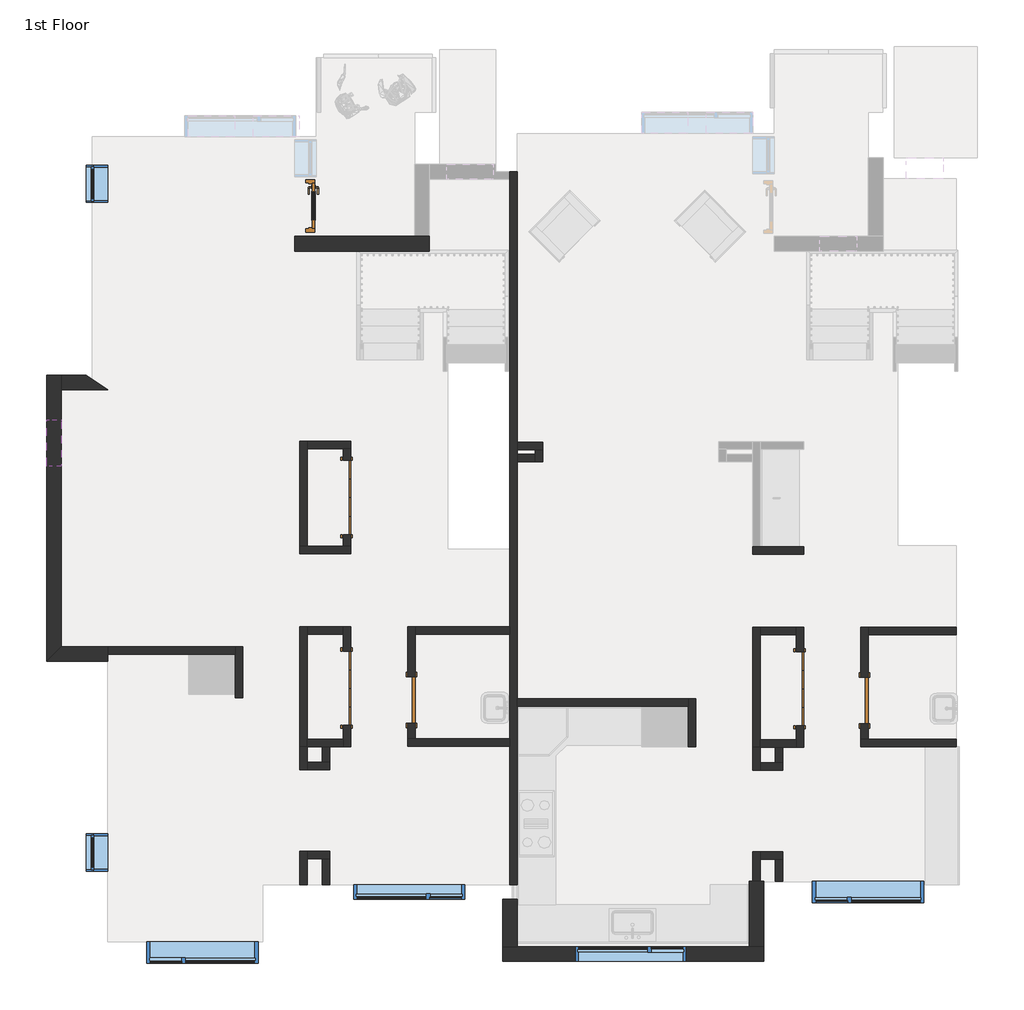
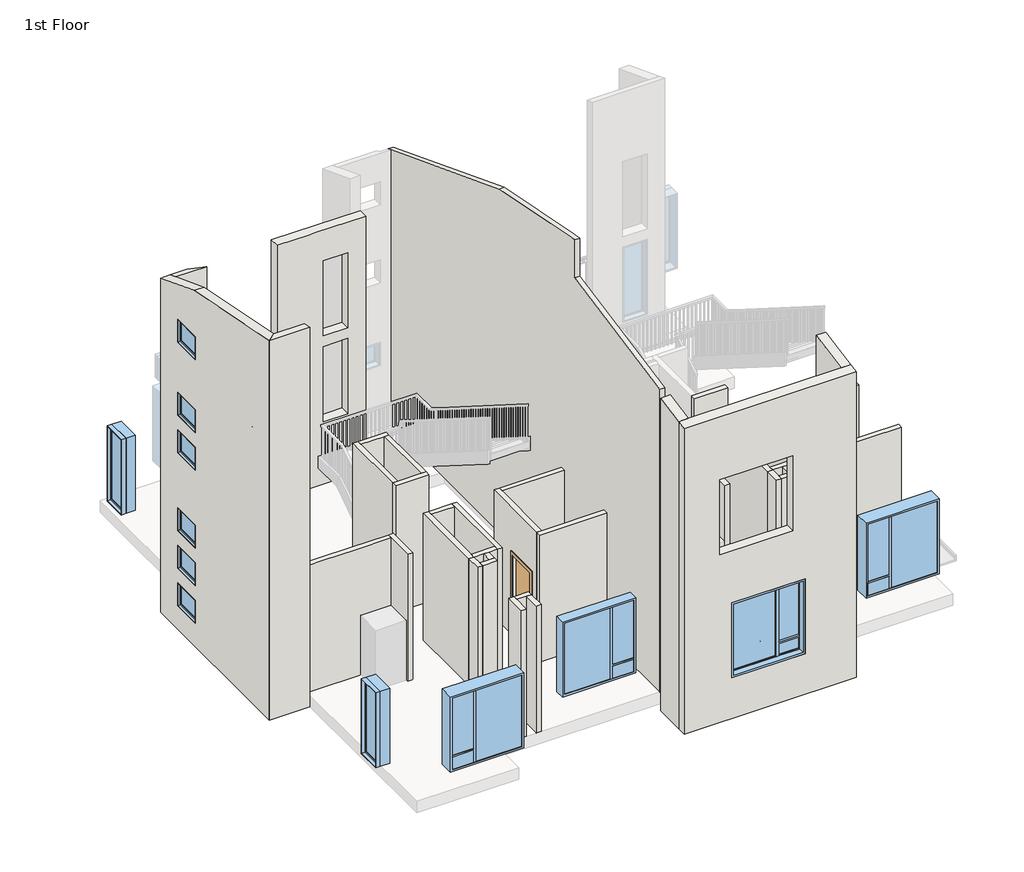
# One storey, part 1 of 6: 46 walls, 12 windows, 6 doors.
"""IFC4 building model written with IfcOpenShell, lengths in millimetres."""

from ifc_helpers import new_model, si_unit, frame, origin, origin_with_axes, place, context, project, spatial, polyline, outline, extrude, faceted_brep, transform, mapped, element, save
from components import bifold_4_panel_87549022, door_00adfaa7, door_f8acb57e, window_8bf192ed, window_b1c1038b, window_8c170f25, window_7b40078c, window_0ea17b29, window_b4566f23

model = new_model("IFC4")

# Units and contexts
model_context = context("Model", 3, world=origin())
ifc_project = project(units=[si_unit("LENGTHUNIT", "METRE", prefix="MILLI")], contexts=[model_context])

# Site, building, storey
site = spatial("IfcSite", under=ifc_project)
building = spatial("IfcBuilding", under=site)
storey = spatial("IfcBuildingStorey", under=building, Name="1st Floor", Elevation=0.0)

# Doors
placement = place(None, origin())
bifold_4_panel_shape = bifold_4_panel_87549022(model_context)
element("IfcDoor", 1, ObjectType="Bifold - 4 panel : 48\" x  84\"", at=placement, inside=storey, context=model_context, shape_type="MappedRepresentation", body=[
    mapped(bifold_4_panel_shape, transform((3072.3655789, -2688.2311915, 0.0), x_axis=(0.0, -1.0, 0.0), y_axis=(1.0, 0.0, 0.0), z_axis=(0.0, 0.0, 1.0))),
])
element("IfcDoor", 2, ObjectType="Bifold - 4 panel : 48\" x  84\"", at=placement, inside=storey, context=model_context, shape_type="MappedRepresentation", body=[
    mapped(bifold_4_panel_shape, transform((-4380.8788287, -2678.2311915, 0.0), x_axis=(0.0, -1.0, 0.0), y_axis=(1.0, 0.0, 0.0), z_axis=(0.0, 0.0, 1.0))),
])
element("IfcDoor", 3, ObjectType="Bifold - 4 panel : 48\" x  84\"", at=placement, inside=storey, context=model_context, shape_type="MappedRepresentation", body=[
    mapped(bifold_4_panel_shape, transform((-4380.8788287, 458.0881146, 0.0), x_axis=(0.0, -1.0, 0.0), y_axis=(1.0, 0.0, 0.0), z_axis=(0.0, 0.0, 1.0))),
])
door_shape = door_00adfaa7(model_context)
element("IfcDoor", 4, ObjectType="Door-Passage-Single-Full_Lite : 30\" x 84\"", at=placement, inside=storey, context=model_context, shape_type="MappedRepresentation", body=[
    mapped(door_shape, transform((-5065.5821781, 5257.9813085, 0.0), x_axis=(0.0, -1.0, 0.0), y_axis=(1.0, 0.0, 0.0), z_axis=(0.0, 0.0, 1.0))),
])
door_2_shape = door_f8acb57e(model_context)
element("IfcDoor", 5, ObjectType="Single-Flush : 30\" x 84\"", at=placement, inside=storey, context=model_context, shape_type="MappedRepresentation", body=[
    mapped(door_2_shape, transform((4133.8655789, -2883.0811915, 0.0), x_axis=(0.0, -1.0, 0.0), y_axis=(1.0, 0.0, 0.0), z_axis=(0.0, 0.0, 1.0))),
])
element("IfcDoor", 6, ObjectType="Single-Flush : 30\" x 84\"", at=placement, inside=storey, context=model_context, shape_type="MappedRepresentation", body=[
    mapped(door_2_shape, transform((-3319.3788287, -2873.0811915, 0.0), x_axis=(0.0, -1.0, 0.0), y_axis=(1.0, 0.0, 0.0), z_axis=(0.0, 0.0, 1.0))),
])

# Walls
element("IfcWall", 7, ObjectType="Exterior - Stucco", at=placement, inside=storey, context=model_context, shape_type="Brep", body=[
    faceted_brep([(-1817.4196781, -7175.2311915, -304.8), (2477.8178219, -7175.2311915, -304.8), (2477.8178219, -7175.2311915, 7751.741203), (-1817.4196781, -7175.2311915, 7751.741203), (1202.9938664, -7175.2311915, 2743.2), (1202.9938664, -7175.2311915, 762.0), (-625.8061336, -7175.2311915, 762.0), (-625.8061336, -7175.2311915, 2743.2), (898.1938664, -7175.2311915, 6096.0), (898.1938664, -7175.2311915, 4114.8), (-930.6061336, -7175.2311915, 4114.8), (-930.6061336, -7175.2311915, 6096.0), (-1817.4196781, -6933.9311915, -304.8), (-1817.4196781, -6933.9311915, 7798.3676333), (-1576.1196781, -6933.9311915, 7798.3676333), (2236.5178219, -6933.9311915, 7798.3676333), (2477.8178219, -6933.9311915, 7798.3676333), (2477.8178219, -6933.9311915, -304.8), (2236.5178219, -6933.9311915, -304.8), (-1576.1196781, -6933.9311915, -304.8), (1202.9938664, -6933.9311915, 2743.2), (-625.8061336, -6933.9311915, 2743.2), (-625.8061336, -6933.9311915, 762.0), (1202.9938664, -6933.9311915, 762.0), (898.1938664, -6933.9311915, 6096.0), (-930.6061336, -6933.9311915, 6096.0), (-930.6061336, -6933.9311915, 4114.8), (898.1938664, -6933.9311915, 4114.8)], [[[0, 1, 2, 3], [4, 5, 6, 7], [8, 9, 10, 11]], [[12, 13, 14, 15, 16, 17, 18, 19], [20, 21, 22, 23], [24, 25, 26, 27]], [[1, 0, 12, 19, 18, 17]], [[0, 3, 13, 12]], [[2, 1, 17, 16]], [[3, 2, 16, 15, 14, 13]], [[5, 4, 20, 23]], [[6, 5, 23, 22]], [[7, 6, 22, 21]], [[4, 7, 21, 20]], [[9, 8, 24, 27]], [[10, 9, 27, 26]], [[11, 10, 26, 25]], [[8, 11, 25, 24]]]),
])
element("IfcWall", 8, ObjectType="Exterior - Stucco", at=placement, inside=storey, context=model_context, shape_type="Brep", body=[
    faceted_brep([(-9080.4946781, 2472.0574206, -304.8), (-9080.4946781, 2472.0574206, 8511.7370135), (-9080.4946781, 2230.7574206, 8604.6307787), (-9080.4946781, 1023.3611207, 9069.4446552), (-9080.4946781, -1997.5436915, 9665.7212145), (-9080.4946781, -1997.5436915, -304.8), (-9080.4946781, 2230.7574206, -304.8), (-9080.4946781, 1734.6688085, 7870.825), (-9080.4946781, 1734.6688085, 7261.225), (-9080.4946781, 972.6688085, 7261.225), (-9080.4946781, 972.6688085, 7870.825), (-9080.4946781, 1734.6688085, 5949.95), (-9080.4946781, 1734.6688085, 5340.35), (-9080.4946781, 972.6688085, 5340.35), (-9080.4946781, 972.6688085, 5949.95), (-9080.4946781, 1734.6688085, 4956.175), (-9080.4946781, 1734.6688085, 4346.575), (-9080.4946781, 972.6688085, 4346.575), (-9080.4946781, 972.6688085, 4956.175), (-9080.4946781, 1734.6688085, 2901.95), (-9080.4946781, 1734.6688085, 2292.35), (-9080.4946781, 972.6688085, 2292.35), (-9080.4946781, 972.6688085, 2901.95), (-9080.4946781, 1734.6688085, 1908.175), (-9080.4946781, 1734.6688085, 1298.575), (-9080.4946781, 972.6688085, 1298.575), (-9080.4946781, 972.6688085, 1908.175), (-9080.4946781, 1734.6688085, 914.4), (-9080.4946781, 1734.6688085, 304.8), (-9080.4946781, 972.6688085, 304.8), (-9080.4946781, 972.6688085, 914.4), (-9321.7946781, 2472.0574206, -304.8), (-9321.7946781, -2238.8436915, -304.8), (-9321.7946781, -2238.8436915, 9713.3498366), (-9321.7946781, 1023.3611207, 9069.4446552), (-9321.7946781, 2472.0574206, 8511.7370135), (-9321.7946781, 1734.6688085, 7870.825), (-9321.7946781, 972.6688085, 7870.825), (-9321.7946781, 972.6688085, 7261.225), (-9321.7946781, 1734.6688085, 7261.225), (-9321.7946781, 1734.6688085, 5949.95), (-9321.7946781, 972.6688085, 5949.95), (-9321.7946781, 972.6688085, 5340.35), (-9321.7946781, 1734.6688085, 5340.35), (-9321.7946781, 1734.6688085, 4956.175), (-9321.7946781, 972.6688085, 4956.175), (-9321.7946781, 972.6688085, 4346.575), (-9321.7946781, 1734.6688085, 4346.575), (-9321.7946781, 1734.6688085, 2901.95), (-9321.7946781, 972.6688085, 2901.95), (-9321.7946781, 972.6688085, 2292.35), (-9321.7946781, 1734.6688085, 2292.35), (-9321.7946781, 1734.6688085, 1908.175), (-9321.7946781, 972.6688085, 1908.175), (-9321.7946781, 972.6688085, 1298.575), (-9321.7946781, 1734.6688085, 1298.575), (-9321.7946781, 1734.6688085, 914.4), (-9321.7946781, 972.6688085, 914.4), (-9321.7946781, 972.6688085, 304.8), (-9321.7946781, 1734.6688085, 304.8)], [[[0, 1, 2, 3, 4, 5, 6], [7, 8, 9, 10], [11, 12, 13, 14], [15, 16, 17, 18], [19, 20, 21, 22], [23, 24, 25, 26], [27, 28, 29, 30]], [[31, 32, 33, 34, 35], [36, 37, 38, 39], [40, 41, 42, 43], [44, 45, 46, 47], [48, 49, 50, 51], [52, 53, 54, 55], [56, 57, 58, 59]], [[32, 31, 0, 6, 5]], [[31, 35, 1, 0]], [[33, 32, 5, 4]], [[35, 34, 3, 2, 1]], [[34, 33, 4, 3]], [[8, 7, 36, 39]], [[9, 8, 39, 38]], [[10, 9, 38, 37]], [[7, 10, 37, 36]], [[12, 11, 40, 43]], [[13, 12, 43, 42]], [[14, 13, 42, 41]], [[11, 14, 41, 40]], [[16, 15, 44, 47]], [[17, 16, 47, 46]], [[18, 17, 46, 45]], [[15, 18, 45, 44]], [[20, 19, 48, 51]], [[21, 20, 51, 50]], [[22, 21, 50, 49]], [[19, 22, 49, 48]], [[24, 23, 52, 55]], [[25, 24, 55, 54]], [[26, 25, 54, 53]], [[23, 26, 53, 52]], [[28, 27, 56, 59]], [[29, 28, 59, 58]], [[30, 29, 58, 57]], [[27, 30, 57, 56]]]),
])
element("IfcWall", 9, ObjectType="Exterior - Stucco", at=placement, inside=storey, context=model_context, shape_type="Brep", body=[
    faceted_brep([(-9080.4946781, 2230.7574206, -304.8), (-8312.2446781, 2230.7574206, -304.8), (-8312.2446781, 2230.7574206, 8604.6307787), (-9080.4946781, 2230.7574206, 8604.6307787), (-9080.4946781, 2472.0574206, -304.8), (-9080.4946781, 2472.0574206, 8511.7370135), (-8664.6696781, 2472.0574206, 8511.7370135), (-8664.6696781, 2472.0574206, -304.8)], [[[0, 1, 2, 3]], [[4, 5, 6, 7]], [[1, 0, 4, 7]], [[2, 1, 7, 6]], [[0, 3, 5, 4]], [[3, 2, 6, 5]]]),
])
element("IfcWall", 10, ObjectType="Exterior - Stucco", at=placement, inside=storey, context=model_context, shape_type="Brep", body=[
    faceted_brep([(-9321.7946781, -2238.8436915, -304.8), (-8312.2446781, -2238.8436915, -304.8), (-8312.2446781, -2238.8436915, -28.575), (-8312.2446781, -2238.8436915, 6705.6), (-8312.2446781, -2238.8436915, 8711.0519224), (-8312.2446781, -2238.8436915, 9713.3498366), (-9321.7946781, -2238.8436915, 9713.3498366), (-9080.4946781, -1997.5436915, -304.8), (-9080.4946781, -1997.5436915, 9665.7212145), (-8312.2446781, -1997.5436915, 9665.7212145), (-8312.2446781, -1997.5436915, 6705.6), (-8312.2446781, -1997.5436915, -304.8)], [[[0, 1, 2, 3, 4, 5, 6]], [[7, 8, 9, 10, 11]], [[1, 0, 7, 11]], [[5, 4, 3, 2, 1, 11, 10, 9]], [[0, 6, 8, 7]], [[6, 5, 9, 8]]]),
])
element("IfcWall", 11, ObjectType="Exterior - Stucco", at=placement, inside=storey, context=model_context, shape_type="Brep", body=[
    faceted_brep([(-5235.4446781, 4511.8563085, 6705.6), (-4418.7969211, 4511.8563085, 6705.6), (-4294.9719211, 4511.8563085, 6705.6), (-3024.9735601, 4511.8563085, 6705.6), (-3024.9735601, 4753.1563085, 6705.6), (-5235.4446781, 4753.1563085, 6705.6), (-3024.9735601, 4753.1563085, 0.0), (-3266.2735601, 4753.1563085, 0.0), (-5235.4446781, 4753.1563085, 0.0), (-3471.0610601, 4753.1563085, 1651.0), (-3471.0610601, 4753.1563085, 3632.2), (-4080.6610601, 4753.1563085, 3632.2), (-4080.6610601, 4753.1563085, 1651.0), (-3471.0610601, 4753.1563085, 5892.8), (-4080.6610601, 4753.1563085, 5892.8), (-4080.6610601, 4753.1563085, 3911.6), (-3471.0610601, 4753.1563085, 3911.6), (-5235.4446781, 4511.8563085, 0.0), (-3024.9735601, 4511.8563085, 0.0), (-3471.0610601, 4511.8563085, 3632.2), (-3471.0610601, 4511.8563085, 1651.0), (-4080.6610601, 4511.8563085, 1651.0), (-4080.6610601, 4511.8563085, 3632.2), (-3471.0610601, 4511.8563085, 5892.8), (-3471.0610601, 4511.8563085, 3911.6), (-4080.6610601, 4511.8563085, 3911.6), (-4080.6610601, 4511.8563085, 5892.8)], [[[0, 1, 2, 3, 4, 5]], [[6, 7, 8, 5, 4], [9, 10, 11, 12], [13, 14, 15, 16]], [[17, 18, 3, 2, 1, 0], [19, 20, 21, 22], [23, 24, 25, 26]], [[18, 17, 8, 7, 6]], [[3, 18, 6, 4]], [[17, 0, 5, 8]], [[19, 10, 9, 20]], [[20, 9, 12, 21]], [[21, 12, 11, 22]], [[10, 19, 22, 11]], [[24, 23, 13, 16]], [[25, 24, 16, 15]], [[26, 25, 15, 14]], [[23, 26, 14, 13]]]),
])
element("IfcWall", 12, ObjectType="Exterior - Stucco", at=placement, inside=storey, context=model_context, shape_type="SweptSolid", body=[
    extrude(outline(polyline([(-6155.1546456, 7948.8507263), (-6155.1546456, -304.8), (-6933.9311915, -304.8), (-6933.9311915, 7798.3676333), (-6155.1546456, 7948.8507263)])), frame((-1817.4196781, 0.0, 0.0), z_axis=(1.0, 0.0, 0.0), x_axis=(0.0, 1.0, 0.0)), (0.0, 0.0, 1.0), 241.3),
])
element("IfcWall", 13, ObjectType="Exterior - Stucco", at=placement, inside=storey, context=model_context, shape_type="Brep", body=[
    faceted_brep([(2477.8178219, -6933.9311915, -304.8), (2477.8178219, -6210.7171456, -304.8), (2477.8178219, -5858.2921456, -304.8), (2477.8178219, -5858.2921456, 8006.2135057), (2477.8178219, -6210.7171456, 7938.1143772), (2477.8178219, -6933.9311915, 7798.3676333), (2236.5178219, -6933.9311915, -304.8), (2236.5178219, -6933.9311915, 7798.3676333), (2236.5178219, -5858.2921456, 8006.2135057), (2236.5178219, -5858.2921456, -304.8)], [[[0, 1, 2, 3, 4, 5]], [[6, 7, 8, 9]], [[2, 1, 0, 6, 9]], [[2, 9, 8, 3]], [[0, 5, 7, 6]], [[5, 4, 3, 8, 7]]]),
])
element("IfcWall", 14, ObjectType="Interior - 4 7/8\" Partition (1-hr)", at=placement, inside=storey, context=model_context, shape_type="Brep", body=[
    faceted_brep([(5642.6530789, -3646.6686915, 0.0), (5642.6530789, -3646.6686915, 3048.0), (4071.9530789, -3646.6686915, 3048.0), (4071.9530789, -3646.6686915, 0.0), (5642.6530789, -3522.8436915, 0.0), (4195.7780789, -3522.8436915, 0.0), (4071.9530789, -3522.8436915, 0.0), (4071.9530789, -3522.8436915, 3048.0), (4195.7780789, -3522.8436915, 3048.0), (5642.6530789, -3522.8436915, 3048.0)], [[[0, 1, 2, 3]], [[4, 5, 6, 7, 8, 9]], [[6, 5, 4, 0, 3]], [[7, 6, 3, 2]], [[4, 9, 1, 0]], [[9, 8, 7, 2, 1]]]),
])
element("IfcWall", 15, ObjectType="Interior - 4 7/8\" Partition (1-hr)", at=placement, inside=storey, context=model_context, shape_type="Brep", body=[
    faceted_brep([(4071.9530789, -3264.0811915, 2133.6), (4071.9530789, -3264.0811915, 0.0), (4071.9530789, -3522.8436915, 0.0), (4071.9530789, -3522.8436915, 3048.0), (4071.9530789, -1675.8186915, 3048.0), (4071.9530789, -1675.8186915, 0.0), (4071.9530789, -2502.0811915, 0.0), (4071.9530789, -2502.0811915, 2133.6), (4195.7780789, -3522.8436915, 0.0), (4195.7780789, -3264.0811915, 0.0), (4195.7780789, -3264.0811915, 2133.6), (4195.7780789, -2502.0811915, 2133.6), (4195.7780789, -2502.0811915, 0.0), (4195.7780789, -1799.6436915, 0.0), (4195.7780789, -1675.8186915, 0.0), (4195.7780789, -1675.8186915, 3048.0), (4195.7780789, -1799.6436915, 3048.0), (4195.7780789, -3522.8436915, 3048.0)], [[[0, 1, 2, 3, 4, 5, 6, 7]], [[8, 9, 10, 11, 12, 13, 14, 15, 16, 17]], [[2, 1, 9, 8]], [[6, 5, 14, 13, 12]], [[15, 14, 5, 4]], [[8, 17, 3, 2]], [[17, 16, 15, 4, 3]], [[10, 9, 1, 0]], [[11, 10, 0, 7]], [[12, 11, 7, 6]]]),
])
element("IfcWall", 16, ObjectType="Interior - 4 7/8\" Partition (1-hr)", at=placement, inside=storey, context=model_context, shape_type="SweptSolid", body=[
    extrude(outline(polyline([(5642.6530789, -1799.6436915), (4195.7780789, -1799.6436915), (4195.7780789, -1675.8186915), (5642.6530789, -1675.8186915), (5642.6530789, -1799.6436915)])), origin_with_axes(), (0.0, 0.0, 1.0), 3048.0),
])
element("IfcWall", 17, ObjectType="Interior - 4 7/8\" Partition (1-hr)", at=placement, inside=storey, context=model_context, shape_type="Brep", body=[
    faceted_brep([(3133.8655789, -352.8186915, 0.0), (3133.8655789, -352.8186915, 3048.0), (3133.8655789, -476.6436915, 3048.0), (3133.8655789, -476.6436915, 0.0), (2300.7803219, -476.6436915, 3048.0), (2300.7803219, -476.6436915, 0.0), (2424.6053219, -352.8186915, 0.0), (2300.7803219, -352.8186915, 0.0), (2300.7803219, -352.8186915, 3048.0), (2424.6053219, -352.8186915, 3048.0)], [[[0, 1, 2, 3]], [[3, 2, 4, 5]], [[0, 6, 7, 8, 9, 1]], [[7, 6, 0, 3, 5]], [[8, 7, 5, 4]], [[1, 9, 8, 4, 2]]]),
])
element("IfcWall", 18, ObjectType="Interior - 4 7/8\" Partition (1-hr)", at=placement, inside=storey, context=model_context, shape_type="SweptSolid", body=[
    extrude(outline(polyline([(1235.1530789, -2980.3686915), (-1576.1196781, -2980.3686915), (-1576.1196781, -2856.5436915), (1235.1530789, -2856.5436915), (1235.1530789, -2980.3686915)])), origin_with_axes(), (0.0, 0.0, 1.0), 3048.0),
])
element("IfcWall", 19, ObjectType="Interior - 4 7/8\" Partition (1-hr)", at=placement, inside=storey, context=model_context, shape_type="Brep", body=[
    faceted_brep([(3134.2780789, -3652.9061915, 0.0), (3134.2780789, -3297.8311915, 0.0), (3134.2780789, -3297.8311915, 2133.6), (3134.2780789, -2078.6311915, 2133.6), (3134.2780789, -2078.6311915, 0.0), (3134.2780789, -1675.8186915, 0.0), (3134.2780789, -1675.8186915, 3048.0), (3134.2780789, -3652.9061915, 3048.0), (3010.4530789, -3297.8311915, 2133.6), (3010.4530789, -3297.8311915, 0.0), (3010.4530789, -3529.0811915, 0.0), (3010.4530789, -3652.9061915, 0.0), (3010.4530789, -3652.9061915, 3048.0), (3010.4530789, -3529.0811915, 3048.0), (3010.4530789, -1799.6436915, 3048.0), (3010.4530789, -1675.8186915, 3048.0), (3010.4530789, -1675.8186915, 0.0), (3010.4530789, -1799.6436915, 0.0), (3010.4530789, -2078.6311915, 0.0), (3010.4530789, -2078.6311915, 2133.6)], [[[0, 1, 2, 3, 4, 5, 6, 7]], [[8, 9, 10, 11, 12, 13, 14, 15, 16, 17, 18, 19]], [[11, 10, 9, 1, 0]], [[18, 17, 16, 5, 4]], [[16, 15, 6, 5]], [[12, 11, 0, 7]], [[15, 14, 13, 12, 7, 6]], [[2, 1, 9, 8]], [[3, 2, 8, 19]], [[4, 3, 19, 18]]]),
])
element("IfcWall", 20, ObjectType="Interior - 4 7/8\" Partition (1-hr)", at=placement, inside=storey, context=model_context, shape_type="Brep", body=[
    faceted_brep([(2424.6053219, -1675.8186915, 0.0), (2424.6053219, -1675.8186915, 3048.0), (2424.6053219, -1799.6436915, 3048.0), (2424.6053219, -3529.0811915, 3048.0), (2424.6053219, -3652.9061915, 3048.0), (2424.6053219, -3652.9061915, 0.0), (2424.6053219, -3529.0811915, 0.0), (2424.6053219, -1799.6436915, 0.0), (2300.7803219, -1675.8186915, 0.0), (2300.7803219, -3652.9061915, 0.0), (2300.7803219, -3652.9061915, 3048.0), (2300.7803219, -1675.8186915, 3048.0)], [[[0, 1, 2, 3, 4, 5, 6, 7]], [[8, 9, 10, 11]], [[9, 8, 0, 7, 6, 5]], [[8, 11, 1, 0]], [[10, 9, 5, 4]], [[11, 10, 4, 3, 2, 1]]]),
])
element("IfcWall", 21, ObjectType="Interior - 4 7/8\" Partition (1-hr)", at=placement, inside=storey, context=model_context, shape_type="Brep", body=[
    faceted_brep([(1235.1530789, -3646.2561915, 3048.0), (1235.1530789, -3646.2561915, 0.0), (1358.9780789, -3646.2561915, 0.0), (1358.9780789, -3646.2561915, 3048.0), (1358.9780789, -2856.5436915, 0.0), (1358.9780789, -2856.5436915, 3048.0), (1235.1530789, -2856.5436915, 0.0), (1235.1530789, -2980.3686915, 0.0), (1235.1530789, -2980.3686915, 3048.0), (1235.1530789, -2856.5436915, 3048.0)], [[[0, 1, 2, 3]], [[4, 5, 3, 2]], [[6, 7, 1, 0, 8, 9]], [[1, 7, 6, 4, 2]], [[6, 9, 5, 4]], [[9, 8, 0, 3, 5]]]),
])
element("IfcWall", 22, ObjectType="Interior - 4 7/8\" Partition (1-hr)", at=placement, inside=storey, context=model_context, shape_type="SweptSolid", body=[
    extrude(outline(polyline([(3010.4530789, -1799.6436915), (2424.6053219, -1799.6436915), (2424.6053219, -1675.8186915), (3010.4530789, -1675.8186915), (3010.4530789, -1799.6436915)])), origin_with_axes(), (0.0, 0.0, 1.0), 3048.0),
])
element("IfcWall", 23, ObjectType="Interior - 4 7/8\" Partition (1-hr)", at=placement, inside=storey, context=model_context, shape_type="Brep", body=[
    faceted_brep([(2424.6053219, -3652.9061915, 0.0), (2667.0803219, -3652.9061915, 0.0), (2790.9053219, -3652.9061915, 0.0), (3010.4530789, -3652.9061915, 0.0), (3010.4530789, -3652.9061915, 3048.0), (2790.9053219, -3652.9061915, 3048.0), (2667.0803219, -3652.9061915, 3048.0), (2424.6053219, -3652.9061915, 3048.0), (2424.6053219, -3529.0811915, 0.0), (2424.6053219, -3529.0811915, 3048.0), (3010.4530789, -3529.0811915, 3048.0), (3010.4530789, -3529.0811915, 0.0)], [[[0, 1, 2, 3, 4, 5, 6, 7]], [[8, 9, 10, 11]], [[3, 2, 1, 0, 8, 11]], [[4, 3, 11, 10]], [[0, 7, 9, 8]], [[7, 6, 5, 4, 10, 9]]]),
])
element("IfcWall", 24, ObjectType="Interior - 4 7/8\" Partition (1-hr)", at=placement, inside=storey, context=model_context, shape_type="Brep", body=[
    faceted_brep([(-1576.1196781, 1369.6145201, 0.0), (-1576.1196781, 1369.6145201, 3048.0), (-1158.1946824, 1369.6188208, 3048.0), (-1158.1946824, 1369.6188208, 0.0), (-1576.1196781, 1245.7895201, 0.0), (-1282.0184081, 1245.7925466, 0.0), (-1158.1934081, 1245.7938208, 0.0), (-1158.1934081, 1245.7938208, 3048.0), (-1282.0184081, 1245.7925466, 3048.0), (-1576.1196781, 1245.7895201, 3048.0)], [[[0, 1, 2, 3]], [[4, 5, 6, 7, 8, 9]], [[6, 5, 4, 0, 3]], [[7, 6, 3, 2]], [[4, 9, 1, 0]], [[9, 8, 7, 2, 1]]]),
])
element("IfcWall", 25, ObjectType="Interior - 4 7/8\" Partition (1-hr)", at=placement, inside=storey, context=model_context, shape_type="Brep", body=[
    faceted_brep([(-1158.1934081, 1245.7938208, 0.0), (-1158.1934081, 1245.7938208, 3048.0), (-1158.1913829, 1048.9949206, 3048.0), (-1158.1913829, 1048.9949206, 0.0), (-1282.0184081, 1245.7925466, 0.0), (-1282.0176572, 1172.8199206, 0.0), (-1282.016383, 1048.9949206, 0.0), (-1282.016383, 1048.9949206, 3048.0), (-1282.0176572, 1172.8199206, 3048.0), (-1282.0184081, 1245.7925466, 3048.0)], [[[0, 1, 2, 3]], [[4, 5, 6, 7, 8, 9]], [[6, 5, 4, 0, 3]], [[4, 9, 1, 0]], [[7, 6, 3, 2]], [[9, 8, 7, 2, 1]]]),
])
element("IfcWall", 26, ObjectType="Interior - 4 7/8\" Partition (1-hr)", at=placement, inside=storey, context=model_context, shape_type="SweptSolid", body=[
    extrude(outline(polyline([(-1576.1196781, 1172.8199206), (-1282.0176572, 1172.8199206), (-1282.016383, 1048.9949206), (-1576.1196781, 1048.9949206), (-1576.1196781, 1172.8199206)])), origin_with_axes(), (0.0, 0.0, 1.0), 3048.0),
])
element("IfcWall", 27, ObjectType="Interior - 4 7/8\" Partition (1-hr)", at=placement, inside=storey, context=model_context, shape_type="Brep", body=[
    faceted_brep([(2424.6053219, -3652.9061915, 0.0), (2424.6053219, -3652.9061915, 3048.0), (2424.6053219, -3904.9061915, 3048.0), (2424.6053219, -4028.7311915, 3048.0), (2424.6053219, -4028.7311915, 0.0), (2424.6053219, -3904.9061915, 0.0), (2300.7803219, -3652.9061915, 0.0), (2300.7803219, -4028.7311915, 0.0), (2300.7803219, -4028.7311915, 3048.0), (2300.7803219, -3652.9061915, 3048.0)], [[[0, 1, 2, 3, 4, 5]], [[6, 7, 8, 9]], [[7, 6, 0, 5, 4]], [[6, 9, 1, 0]], [[8, 7, 4, 3]], [[9, 8, 3, 2, 1]]]),
])
element("IfcWall", 28, ObjectType="Interior - 4 7/8\" Partition (1-hr)", at=placement, inside=storey, context=model_context, shape_type="Brep", body=[
    faceted_brep([(2424.6053219, -3904.9061915, 0.0), (2424.6053219, -3904.9061915, 3048.0), (2667.0803219, -3904.9061915, 3048.0), (2790.9053219, -3904.9061915, 3048.0), (2790.9053219, -3904.9061915, 0.0), (2667.0803219, -3904.9061915, 0.0), (2424.6053219, -4028.7311915, 0.0), (2790.9053219, -4028.7311915, 0.0), (2790.9053219, -4028.7311915, 3048.0), (2424.6053219, -4028.7311915, 3048.0)], [[[0, 1, 2, 3, 4, 5]], [[6, 7, 8, 9]], [[7, 6, 0, 5, 4]], [[6, 9, 1, 0]], [[8, 7, 4, 3]], [[9, 8, 3, 2, 1]]]),
])
element("IfcWall", 29, ObjectType="Interior - 4 7/8\" Partition (1-hr)", at=placement, inside=storey, context=model_context, shape_type="SweptSolid", body=[
    extrude(outline(polyline([(2790.9053219, -3652.9061915), (2790.9053219, -3904.9061915), (2667.0803219, -3904.9061915), (2667.0803219, -3652.9061915), (2790.9053219, -3652.9061915)])), origin_with_axes(), (0.0, 0.0, 1.0), 3048.0),
])
element("IfcWall", 30, ObjectType="Interior - 4 7/8\" Partition (1-hr)", at=placement, inside=storey, context=model_context, shape_type="Brep", body=[
    faceted_brep([(2300.6536115, -5858.2921456, 0.0), (2300.6536115, -5858.2921456, 3048.0), (2300.6536115, -5374.1311915, 3048.0), (2300.6536115, -5374.1311915, 0.0), (2424.4786115, -5858.2921456, 0.0), (2424.4786115, -5497.9561915, 0.0), (2424.4786115, -5374.1311915, 0.0), (2424.4786115, -5374.1311915, 3048.0), (2424.4786115, -5497.9561915, 3048.0), (2424.4786115, -5858.2921456, 3048.0)], [[[0, 1, 2, 3]], [[4, 5, 6, 7, 8, 9]], [[6, 5, 4, 0, 3]], [[7, 6, 3, 2]], [[4, 9, 1, 0]], [[9, 8, 7, 2, 1]]]),
])
element("IfcWall", 31, ObjectType="Interior - 4 7/8\" Partition (1-hr)", at=placement, inside=storey, context=model_context, shape_type="Brep", body=[
    faceted_brep([(2424.4786115, -5374.1311915, 0.0), (2424.4786115, -5374.1311915, 3048.0), (2790.9053219, -5374.1311915, 3048.0), (2790.9053219, -5374.1311915, 0.0), (2424.4786115, -5497.9561915, 0.0), (2667.0803219, -5497.9561915, 0.0), (2790.9053219, -5497.9561915, 0.0), (2790.9053219, -5497.9561915, 3048.0), (2667.0803219, -5497.9561915, 3048.0), (2424.4786115, -5497.9561915, 3048.0)], [[[0, 1, 2, 3]], [[4, 5, 6, 7, 8, 9]], [[6, 5, 4, 0, 3]], [[4, 9, 1, 0]], [[7, 6, 3, 2]], [[9, 8, 7, 2, 1]]]),
])
element("IfcWall", 32, ObjectType="Interior - 4 7/8\" Partition (1-hr)", at=placement, inside=storey, context=model_context, shape_type="SweptSolid", body=[
    extrude(outline(polyline([(2667.0803219, -5858.2921456), (2667.0803219, -5497.9561915), (2790.9053219, -5497.9561915), (2790.9053219, -5858.2921456), (2667.0803219, -5858.2921456)])), origin_with_axes(), (0.0, 0.0, 1.0), 3048.0),
])
element("IfcWall", 33, ObjectType="Interior - 4 7/8\" Partition (1-hr)", at=placement, inside=storey, context=model_context, shape_type="Brep", body=[
    faceted_brep([(-1699.9446781, -3512.8436915, 0.0), (-3257.4663287, -3512.8436915, 0.0), (-3381.2913287, -3512.8436915, 0.0), (-3381.2913287, -3512.8436915, 3352.8), (-3257.4663287, -3512.8436915, 3352.8), (-1699.9446781, -3512.8436915, 3352.8), (-1699.9446781, -3636.6686915, 0.0), (-1699.9446781, -3636.6686915, 3352.8), (-3381.2913287, -3636.6686915, 3352.8), (-3381.2913287, -3636.6686915, 0.0)], [[[0, 1, 2, 3, 4, 5]], [[6, 7, 8, 9]], [[2, 1, 0, 6, 9]], [[5, 4, 3, 8, 7]], [[3, 2, 9, 8]], [[0, 5, 7, 6]]]),
])
element("IfcWall", 34, ObjectType="Interior - 4 7/8\" Partition (1-hr)", at=placement, inside=storey, context=model_context, shape_type="Brep", body=[
    faceted_brep([(-3257.4663287, -3512.8436915, 3352.8), (-3257.4663287, -1789.6436915, 3352.8), (-3257.4663287, -1665.8186915, 3352.8), (-3381.2913287, -1665.8186915, 3352.8), (-3381.2913287, -3512.8436915, 3352.8), (-3381.2913287, -3254.0811915, 2133.6), (-3381.2913287, -3254.0811915, 0.0), (-3381.2913287, -3512.8436915, 0.0), (-3381.2913287, -1665.8186915, 0.0), (-3381.2913287, -2492.0811915, 0.0), (-3381.2913287, -2492.0811915, 2133.6), (-3257.4663287, -3512.8436915, 0.0), (-3257.4663287, -3254.0811915, 0.0), (-3257.4663287, -3254.0811915, 2133.6), (-3257.4663287, -2492.0811915, 2133.6), (-3257.4663287, -2492.0811915, 0.0), (-3257.4663287, -1789.6436915, 0.0), (-3257.4663287, -1665.8186915, 0.0)], [[[0, 1, 2, 3, 4]], [[5, 6, 7, 4, 3, 8, 9, 10]], [[11, 12, 13, 14, 15, 16, 17, 2, 1, 0]], [[7, 6, 12, 11]], [[9, 8, 17, 16, 15]], [[2, 17, 8, 3]], [[11, 0, 4, 7]], [[13, 12, 6, 5]], [[14, 13, 5, 10]], [[15, 14, 10, 9]]]),
])
element("IfcWall", 35, ObjectType="Interior - 4 7/8\" Partition (1-hr)", at=placement, inside=storey, context=model_context, shape_type="SweptSolid", body=[
    extrude(outline(polyline([(-1699.9446781, -1789.6436915), (-3257.4663287, -1789.6436915), (-3257.4663287, -1665.8186915), (-1699.9446781, -1665.8186915), (-1699.9446781, -1789.6436915)])), origin_with_axes(), (0.0, 0.0, 1.0), 3352.8),
])
element("IfcWall", 36, ObjectType="Interior - 4 7/8\" Partition (1-hr)", at=placement, inside=storey, context=model_context, shape_type="Brep", body=[
    faceted_brep([(-4318.9663287, -342.8186915, 0.0), (-4442.7913287, -342.8186915, 0.0), (-5028.6390857, -342.8186915, 0.0), (-5152.4640857, -342.8186915, 0.0), (-5152.4640857, -342.8186915, 3352.8), (-5028.6390857, -342.8186915, 3352.8), (-4442.7913287, -342.8186915, 3352.8), (-4318.9663287, -342.8186915, 3352.8), (-4318.9663287, -466.6436915, 0.0), (-4318.9663287, -466.6436915, 3352.8), (-5152.4640857, -466.6436915, 3352.8), (-5152.4640857, -466.6436915, 0.0)], [[[0, 1, 2, 3, 4, 5, 6, 7]], [[8, 9, 10, 11]], [[3, 2, 1, 0, 8, 11]], [[7, 6, 5, 4, 10, 9]], [[4, 3, 11, 10]], [[0, 7, 9, 8]]]),
])
element("IfcWall", 37, ObjectType="Interior - 4 7/8\" Partition (1-hr)", at=placement, inside=storey, context=model_context, shape_type="Brep", body=[
    faceted_brep([(-5028.6390857, -342.8186915, 0.0), (-5028.6390857, 1258.9949206, 0.0), (-5028.6390857, 1382.8199206, 0.0), (-5028.6390857, 1382.8199206, 3352.8), (-5028.6390857, 1258.9949206, 3352.8), (-5028.6390857, -342.8186915, 3352.8), (-5152.4640857, -342.8186915, 0.0), (-5152.4640857, -342.8186915, 3352.8), (-5152.4640857, 1382.8199206, 3352.8), (-5152.4640857, 1382.8199206, 0.0)], [[[0, 1, 2, 3, 4, 5]], [[6, 7, 8, 9]], [[2, 1, 0, 6, 9]], [[5, 4, 3, 8, 7]], [[3, 2, 9, 8]], [[0, 5, 7, 6]]]),
])
element("IfcWall", 38, ObjectType="Interior - 4 7/8\" Partition (1-hr)", at=placement, inside=storey, context=model_context, shape_type="Brep", body=[
    faceted_brep([(-5028.6390857, 1258.9949206, 0.0), (-4442.7913287, 1258.9949206, 0.0), (-4318.9663287, 1258.9949206, 0.0), (-4318.9663287, 1258.9949206, 3352.8), (-4442.7913287, 1258.9949206, 3352.8), (-5028.6390857, 1258.9949206, 3352.8), (-5028.6390857, 1382.8199206, 0.0), (-5028.6390857, 1382.8199206, 3352.8), (-4318.9663287, 1382.8199206, 3352.8), (-4318.9663287, 1382.8199206, 0.0)], [[[0, 1, 2, 3, 4, 5]], [[6, 7, 8, 9]], [[2, 1, 0, 6, 9]], [[5, 4, 3, 8, 7]], [[3, 2, 9, 8]], [[0, 5, 7, 6]]]),
])
element("IfcWall", 39, ObjectType="Interior - 4 7/8\" Partition (1-hr)", at=placement, inside=storey, context=model_context, shape_type="Brep", body=[
    faceted_brep([(-8312.2446781, -2121.3686915, 3352.8), (-7905.7446781, -2121.3686915, 3352.8), (-7143.7446781, -2121.3686915, 3352.8), (-6218.0913287, -2121.3686915, 3352.8), (-6218.0913287, -1997.5436915, 3352.8), (-7143.7446781, -1997.5436915, 3352.8), (-7905.7446781, -1997.5436915, 3352.8), (-8312.2446781, -1997.5436915, 3352.8), (-8312.2446781, -1997.5436915, 0.0), (-6218.0913287, -1997.5436915, 0.0), (-8312.2446781, -2121.3686915, 0.0), (-6218.0913287, -2121.3686915, 0.0)], [[[0, 1, 2, 3, 4, 5, 6, 7]], [[8, 7, 6, 5, 4, 9]], [[10, 11, 3, 2, 1, 0]], [[11, 10, 8, 9]], [[3, 11, 9, 4]], [[10, 0, 7, 8]]]),
])
element("IfcWall", 40, ObjectType="Interior - 4 7/8\" Partition (1-hr)", at=placement, inside=storey, context=model_context, shape_type="Brep", body=[
    faceted_brep([(-4442.7913287, -3287.8311915, 2133.6), (-4442.7913287, -3287.8311915, 0.0), (-4442.7913287, -3519.0811915, 0.0), (-4442.7913287, -3642.9061915, 0.0), (-4442.7913287, -3642.9061915, 3352.8), (-4442.7913287, -3519.0811915, 3352.8), (-4442.7913287, -1789.6436915, 3352.8), (-4442.7913287, -1665.8186915, 3352.8), (-4442.7913287, -1665.8186915, 0.0), (-4442.7913287, -1789.6436915, 0.0), (-4442.7913287, -2068.6311915, 0.0), (-4442.7913287, -2068.6311915, 2133.6), (-4318.9663287, -3642.9061915, 0.0), (-4318.9663287, -3287.8311915, 0.0), (-4318.9663287, -3287.8311915, 2133.6), (-4318.9663287, -2068.6311915, 2133.6), (-4318.9663287, -2068.6311915, 0.0), (-4318.9663287, -1665.8186915, 0.0), (-4318.9663287, -1665.8186915, 3352.8), (-4318.9663287, -3642.9061915, 3352.8)], [[[0, 1, 2, 3, 4, 5, 6, 7, 8, 9, 10, 11]], [[12, 13, 14, 15, 16, 17, 18, 19]], [[3, 2, 1, 13, 12]], [[10, 9, 8, 17, 16]], [[7, 6, 5, 4, 19, 18]], [[8, 7, 18, 17]], [[4, 3, 12, 19]], [[14, 13, 1, 0]], [[15, 14, 0, 11]], [[16, 15, 11, 10]]]),
])
element("IfcWall", 41, ObjectType="Interior - 4 7/8\" Partition (1-hr)", at=placement, inside=storey, context=model_context, shape_type="Brep", body=[
    faceted_brep([(-5152.4640857, -1665.8186915, 0.0), (-5152.4640857, -3642.9061915, 0.0), (-5152.4640857, -3642.9061915, 3352.8), (-5152.4640857, -1665.8186915, 3352.8), (-5028.6390857, -1665.8186915, 0.0), (-5028.6390857, -1665.8186915, 3352.8), (-5028.6390857, -1789.6436915, 3352.8), (-5028.6390857, -3519.0811915, 3352.8), (-5028.6390857, -3642.9061915, 3352.8), (-5028.6390857, -3642.9061915, 0.0), (-5028.6390857, -3519.0811915, 0.0), (-5028.6390857, -1789.6436915, 0.0)], [[[0, 1, 2, 3]], [[4, 5, 6, 7, 8, 9, 10, 11]], [[1, 0, 4, 11, 10, 9]], [[3, 2, 8, 7, 6, 5]], [[0, 3, 5, 4]], [[2, 1, 9, 8]]]),
])
element("IfcWall", 42, ObjectType="Interior - 4 7/8\" Partition (1-hr)", at=placement, inside=storey, context=model_context, shape_type="Brep", body=[
    faceted_brep([(-6218.0913287, -1997.5436915, 0.0), (-6218.0913287, -2121.3686915, 0.0), (-6218.0913287, -2836.9186915, 0.0), (-6218.0913287, -2836.9186915, 3352.8), (-6218.0913287, -2121.3686915, 3352.8), (-6218.0913287, -1997.5436915, 3352.8), (-6094.2663287, -1997.5436915, 0.0), (-6094.2663287, -1997.5436915, 3352.8), (-6094.2663287, -2836.9186915, 3352.8), (-6094.2663287, -2836.9186915, 0.0)], [[[0, 1, 2, 3, 4, 5]], [[6, 7, 8, 9]], [[2, 1, 0, 6, 9]], [[3, 2, 9, 8]], [[5, 4, 3, 8, 7]], [[0, 5, 7, 6]]]),
])
element("IfcWall", 43, ObjectType="Interior - 4 7/8\" Partition (1-hr)", at=placement, inside=storey, context=model_context, shape_type="SweptSolid", body=[
    extrude(outline(polyline([(-4442.7913287, -1789.6436915), (-5028.6390857, -1789.6436915), (-5028.6390857, -1665.8186915), (-4442.7913287, -1665.8186915), (-4442.7913287, -1789.6436915)])), origin_with_axes(), (0.0, 0.0, 1.0), 3352.8),
])
element("IfcWall", 44, ObjectType="Interior - 4 7/8\" Partition (1-hr)", at=placement, inside=storey, context=model_context, shape_type="Brep", body=[
    faceted_brep([(-5028.6390857, -3642.9061915, 0.0), (-4786.1640857, -3642.9061915, 0.0), (-4662.3390857, -3642.9061915, 0.0), (-4442.7913287, -3642.9061915, 0.0), (-4442.7913287, -3642.9061915, 3352.8), (-4662.3390857, -3642.9061915, 3352.8), (-4786.1640857, -3642.9061915, 3352.8), (-5028.6390857, -3642.9061915, 3352.8), (-5028.6390857, -3519.0811915, 0.0), (-5028.6390857, -3519.0811915, 3352.8), (-4442.7913287, -3519.0811915, 3352.8), (-4442.7913287, -3519.0811915, 0.0)], [[[0, 1, 2, 3, 4, 5, 6, 7]], [[8, 9, 10, 11]], [[3, 2, 1, 0, 8, 11]], [[7, 6, 5, 4, 10, 9]], [[4, 3, 11, 10]], [[0, 7, 9, 8]]]),
])
element("IfcWall", 45, ObjectType="Interior - 4 7/8\" Partition (1-hr)", at=placement, inside=storey, context=model_context, shape_type="Brep", body=[
    faceted_brep([(-5152.4640857, -3642.9061915, 0.0), (-5152.4640857, -4018.7311915, 0.0), (-5152.4640857, -4018.7311915, 3352.8), (-5152.4640857, -3642.9061915, 3352.8), (-5028.6390857, -3642.9061915, 0.0), (-5028.6390857, -3642.9061915, 3352.8), (-5028.6390857, -3894.9061915, 3352.8), (-5028.6390857, -4018.7311915, 3352.8), (-5028.6390857, -4018.7311915, 0.0), (-5028.6390857, -3894.9061915, 0.0)], [[[0, 1, 2, 3]], [[4, 5, 6, 7, 8, 9]], [[1, 0, 4, 9, 8]], [[3, 2, 7, 6, 5]], [[2, 1, 8, 7]], [[0, 3, 5, 4]]]),
])
element("IfcWall", 46, ObjectType="Interior - 4 7/8\" Partition (1-hr)", at=placement, inside=storey, context=model_context, shape_type="Brep", body=[
    faceted_brep([(-5028.6390857, -4018.7311915, 0.0), (-4662.3390857, -4018.7311915, 0.0), (-4662.3390857, -4018.7311915, 3352.8), (-5028.6390857, -4018.7311915, 3352.8), (-5028.6390857, -3894.9061915, 0.0), (-5028.6390857, -3894.9061915, 3352.8), (-4786.1640857, -3894.9061915, 3352.8), (-4662.3390857, -3894.9061915, 3352.8), (-4662.3390857, -3894.9061915, 0.0), (-4786.1640857, -3894.9061915, 0.0)], [[[0, 1, 2, 3]], [[4, 5, 6, 7, 8, 9]], [[1, 0, 4, 9, 8]], [[3, 2, 7, 6, 5]], [[2, 1, 8, 7]], [[0, 3, 5, 4]]]),
])
element("IfcWall", 47, ObjectType="Interior - 4 7/8\" Partition (1-hr)", at=placement, inside=storey, context=model_context, shape_type="SweptSolid", body=[
    extrude(outline(polyline([(-4662.3390857, -3642.9061915), (-4662.3390857, -3894.9061915), (-4786.1640857, -3894.9061915), (-4786.1640857, -3642.9061915), (-4662.3390857, -3642.9061915)])), origin_with_axes(), (0.0, 0.0, 1.0), 3352.8),
])
element("IfcWall", 48, ObjectType="Interior - 4 7/8\" Partition (1-hr)", at=placement, inside=storey, context=model_context, shape_type="Brep", body=[
    faceted_brep([(-5028.7657961, -5913.8546456, 0.0), (-5028.7657961, -5487.9561915, 0.0), (-5028.7657961, -5364.1311915, 0.0), (-5028.7657961, -5364.1311915, 3352.8), (-5028.7657961, -5487.9561915, 3352.8), (-5028.7657961, -5913.8546456, 3352.8), (-5152.5907961, -5913.8546456, 0.0), (-5152.5907961, -5913.8546456, 3352.8), (-5152.5907961, -5364.1311915, 3352.8), (-5152.5907961, -5364.1311915, 0.0)], [[[0, 1, 2, 3, 4, 5]], [[6, 7, 8, 9]], [[2, 1, 0, 6, 9]], [[5, 4, 3, 8, 7]], [[3, 2, 9, 8]], [[0, 5, 7, 6]]]),
])
element("IfcWall", 49, ObjectType="Interior - 4 7/8\" Partition (1-hr)", at=placement, inside=storey, context=model_context, shape_type="Brep", body=[
    faceted_brep([(-5028.7657961, -5487.9561915, 0.0), (-4786.1640857, -5487.9561915, 0.0), (-4662.3390857, -5487.9561915, 0.0), (-4662.3390857, -5487.9561915, 3352.8), (-4786.1640857, -5487.9561915, 3352.8), (-5028.7657961, -5487.9561915, 3352.8), (-5028.7657961, -5364.1311915, 0.0), (-5028.7657961, -5364.1311915, 3352.8), (-4662.3390857, -5364.1311915, 3352.8), (-4662.3390857, -5364.1311915, 0.0)], [[[0, 1, 2, 3, 4, 5]], [[6, 7, 8, 9]], [[2, 1, 0, 6, 9]], [[5, 4, 3, 8, 7]], [[3, 2, 9, 8]], [[0, 5, 7, 6]]]),
])
element("IfcWall", 50, ObjectType="Interior - 4 7/8\" Partition (1-hr)", at=placement, inside=storey, context=model_context, shape_type="SweptSolid", body=[
    extrude(outline(polyline([(-4786.1640857, -5913.8546456), (-4786.1640857, -5487.9561915), (-4662.3390857, -5487.9561915), (-4662.3390857, -5913.8546456), (-4786.1640857, -5913.8546456)])), origin_with_axes(), (0.0, 0.0, 1.0), 3352.8),
])
element("IfcWall", 51, ObjectType="Interior - 4 7/8\" Partition (1-hr)", at=placement, inside=storey, context=model_context, shape_type="SweptSolid", body=[
    extrude(outline(polyline([(-151.5118854, 2133.6), (-151.5118854, 0.0), (-342.8186915, 0.0), (-342.8186915, 3352.8), (1258.9949206, 3352.8), (1258.9949206, 0.0), (1067.6881146, 0.0), (1067.6881146, 2133.6), (-151.5118854, 2133.6)])), frame((-4442.7913287, 0.0, 0.0), z_axis=(1.0, 0.0, 0.0), x_axis=(0.0, 1.0, 0.0)), (0.0, 0.0, 1.0), 123.825),
])
element("IfcWall", 52, ObjectType="Interior - 4 7/8\" Partition (1-hr)", at=placement, inside=storey, context=model_context, shape_type="Brep", body=[
    faceted_brep([(-1699.9446781, 5817.7187973, 0.0), (-1699.9446781, 5817.7187973, 7223.7507625), (-1576.1196781, 5817.7187973, 7223.7507625), (-1576.1196781, 5817.7187973, 0.0), (-1576.1196781, 1023.3611207, 9069.4446552), (-1576.1196781, -1997.5436915, 9665.7212145), (-1576.1196781, -2238.8436915, 9713.3498366), (-1576.1196781, -2238.8436915, 8705.6), (-1576.1196781, -5913.8546456, 7995.4771566), (-1576.1196781, -5913.8546456, 0.0), (-1576.1196781, -2980.3686915, 0.0), (-1576.1196781, -2856.5436915, 0.0), (-1576.1196781, 1048.9949206, 0.0), (-1576.1196781, 1172.8199206, 0.0), (-1576.1196781, 1245.7895201, 0.0), (-1576.1196781, 1369.6145201, 0.0), (-1576.1196781, 5697.0687973, 0.0), (-1699.9446781, 5697.0687973, 0.0), (-1699.9446781, -1665.8186915, 0.0), (-1699.9446781, -1789.6436915, 0.0), (-1699.9446781, -3512.8436915, 0.0), (-1699.9446781, -3636.6686915, 0.0), (-1699.9446781, -5913.8546456, 0.0), (-1699.9446781, -5913.8546456, 7995.4771566), (-1699.9446781, -2238.8436915, 8705.6), (-1699.9446781, -2238.8436915, 9713.3498366), (-1699.9446781, -1997.5436915, 9665.7212145), (-1699.9446781, 1023.3611207, 9069.4446552), (-1699.9446781, 5697.0687973, 7270.1976451)], [[[0, 1, 2, 3]], [[3, 2, 4, 5, 6, 7, 8, 9, 10, 11, 12, 13, 14, 15, 16]], [[0, 17, 18, 19, 20, 21, 22, 23, 24, 25, 26, 27, 28, 1]], [[22, 21, 20, 19, 18, 17, 0, 3, 16, 15, 14, 13, 12, 11, 10, 9]], [[23, 22, 9, 8]], [[6, 25, 24, 7]], [[24, 23, 8, 7]], [[1, 28, 27, 4, 2]], [[27, 26, 25, 6, 5, 4]]]),
])

# Windows
window_shape = window_8bf192ed(model_context)
element("IfcWindow", 53, ObjectType="Fixed : 24\" x 30\"", at=placement, inside=storey, context=model_context, shape_type="MappedRepresentation", body=[
    mapped(window_shape, transform((-9201.1446781, 1391.7688085, -609.6), x_axis=(0.0, 1.0, 0.0), y_axis=(-1.0, 0.0, 0.0), z_axis=(0.0, 0.0, 1.0))),
])
element("IfcWindow", 54, ObjectType="Fixed : 24\" x 30\"", at=placement, inside=storey, context=model_context, shape_type="MappedRepresentation", body=[
    mapped(window_shape, transform((-9201.1446781, 1391.7688085, 384.175), x_axis=(0.0, 1.0, 0.0), y_axis=(-1.0, 0.0, 0.0), z_axis=(0.0, 0.0, 1.0))),
])
element("IfcWindow", 55, ObjectType="Fixed : 24\" x 30\"", at=placement, inside=storey, context=model_context, shape_type="MappedRepresentation", body=[
    mapped(window_shape, transform((-9201.1446781, 1391.7688085, 1377.95), x_axis=(0.0, 1.0, 0.0), y_axis=(-1.0, 0.0, 0.0), z_axis=(0.0, 0.0, 1.0))),
])
element("IfcWindow", 56, ObjectType="Fixed : 24\" x 30\"", at=placement, inside=storey, context=model_context, shape_type="MappedRepresentation", body=[
    mapped(window_shape, transform((-9201.1446781, 1391.7688085, 3432.175), x_axis=(0.0, 1.0, 0.0), y_axis=(-1.0, 0.0, 0.0), z_axis=(0.0, 0.0, 1.0))),
])
element("IfcWindow", 57, ObjectType="Fixed : 24\" x 30\"", at=placement, inside=storey, context=model_context, shape_type="MappedRepresentation", body=[
    mapped(window_shape, transform((-9201.1446781, 1391.7688085, 4425.95), x_axis=(0.0, 1.0, 0.0), y_axis=(-1.0, 0.0, 0.0), z_axis=(0.0, 0.0, 1.0))),
])
element("IfcWindow", 58, ObjectType="Fixed : 24\" x 30\"", at=placement, inside=storey, context=model_context, shape_type="MappedRepresentation", body=[
    mapped(window_shape, transform((-9201.1446781, 1391.7688085, 6346.825), x_axis=(0.0, 1.0, 0.0), y_axis=(-1.0, 0.0, 0.0), z_axis=(0.0, 0.0, 1.0))),
])
window_2_shape = window_b1c1038b(model_context)
element("IfcWindow", 59, ObjectType="Fixed : 24\" x 78\"", at=placement, inside=storey, context=model_context, shape_type="MappedRepresentation", body=[
    mapped(window_2_shape, transform((-8488.4571781, 5654.8563085, 0.0), x_axis=(0.0, 1.0, 0.0), y_axis=(-1.0, 0.0, 0.0), z_axis=(0.0, 0.0, 1.0))),
])
window_3_shape = window_8c170f25(model_context)
element("IfcWindow", 60, ObjectType="Fixed : 24\" x 78\"", at=placement, inside=storey, context=model_context, shape_type="MappedRepresentation", body=[
    mapped(window_3_shape, transform((-8488.4571781, -5421.6425794, 0.0), x_axis=(0.0, -1.0, 0.0), y_axis=(1.0, 0.0, 0.0), z_axis=(0.0, 0.0, 1.0))),
])
window_4_shape = window_7b40078c(model_context)
element("IfcWindow", 61, ObjectType="Window-Casement-Double-Sidelight : 72\" x 78\"", at=placement, inside=storey, context=model_context, shape_type="MappedRepresentation", body=[
    mapped(window_4_shape, transform((-6756.9168819, -7030.3311915, -152.4), x_axis=(-1.0, 0.0, 0.0), y_axis=(0.0, -1.0, 0.0), z_axis=(0.0, 0.0, 1.0))),
])
element("IfcWindow", 62, ObjectType="Window-Casement-Double-Sidelight : 72\" x 78\"", at=placement, inside=storey, context=model_context, shape_type="MappedRepresentation", body=[
    mapped(window_4_shape, transform((4195.3655789, -6034.5046456, 0.0), x_axis=(-1.0, 0.0, 0.0), y_axis=(0.0, -1.0, 0.0), z_axis=(0.0, 0.0, 1.0))),
])
window_5_shape = window_0ea17b29(model_context)
element("IfcWindow", 63, ObjectType="Window-Casement-Double-Sidelight : 72\" x 78\"", at=placement, inside=storey, context=model_context, shape_type="MappedRepresentation", body=[
    mapped(window_5_shape, transform((288.5938664, -7054.5811915, -152.4), x_axis=(1.0, 0.0, 0.0), y_axis=(0.0, 1.0, 0.0), z_axis=(0.0, 0.0, 1.0))),
])
window_6_shape = window_b4566f23(model_context)
element("IfcWindow", 64, ObjectType="Window-Casement-Double-Sidelight : 72\" x 78\"", at=placement, inside=storey, context=model_context, shape_type="MappedRepresentation", body=[
    mapped(window_6_shape, transform((-3352.6515857, -6034.5046456, 0.0), x_axis=(1.0, 0.0, 0.0), y_axis=(0.0, 1.0, 0.0), z_axis=(0.0, 0.0, 1.0))),
])

save(model, "model.ifc")
